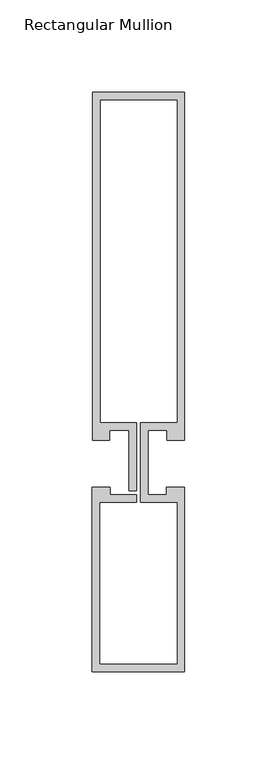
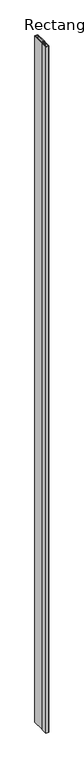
"""IFC4 building model written with IfcOpenShell, lengths in millimetres: member geometry, Rectangular Mullion : Reynaers_CW-50_Transom-Transom_188.5mm_Facecap-02D."""

import ifcopenshell
import ifcopenshell.guid

model = None  # the IFC model being written
_history = None  # IfcOwnerHistory: only IFC2X3 demands one
_inside = {}  # id of a spatial element -> (the spatial element, [elements in it])
_under = {}  # id of a project, library or spatial element -> (it, [spatial elements below it])
_declared = {}  # id of a project -> (the project, [libraries it declares])
_typed = {}  # id of a type object -> (the type object, [elements of that type])
_made_of = {}  # id of a material, layer set ... -> (it, [elements and type objects made of it])


def new_model(schema):
    """Start an empty IFC model of exactly this schema.

    Asked for "IFC4X3", IfcOpenShell would pick the latest addendum, in which some entities
    have other attributes; the version numbers below select the first issue.
    IFC2X3 requires an IfcOwnerHistory on every rooted entity: one is made here for all.
    """
    global model, _history
    if schema == "IFC4X3":
        model = ifcopenshell.file(schema_version=(4, 3, 0, 0))
    else:
        model = ifcopenshell.file(schema=schema)
    _inside.clear()
    _under.clear()
    _declared.clear()
    _typed.clear()
    _made_of.clear()
    _history = None
    if model.schema == "IFC2X3":
        org = make("IfcOrganization", Name="unknown")
        user = make(
            "IfcPersonAndOrganization",
            ThePerson=make("IfcPerson", FamilyName="unknown"),
            TheOrganization=org,
        )
        app = make(
            "IfcApplication",
            ApplicationDeveloper=org,
            Version="unknown",
            ApplicationFullName="unknown",
            ApplicationIdentifier="unknown",
        )
        _history = make(
            "IfcOwnerHistory",
            OwningUser=user,
            OwningApplication=app,
            ChangeAction="ADDED",
            CreationDate=0,
        )
    return model


def make(cls, **values):
    """One entity of the class cls with the attributes given. An attribute that is None is left unset."""
    return model.create_entity(
        cls, **{name: value for name, value in values.items() if value is not None}
    )


def rooted(cls, **values):
    """An entity with a GlobalId (a new one), such as an element, a storey or a relation."""
    return make(cls, GlobalId=ifcopenshell.guid.new(), OwnerHistory=_history, **values)


def si_unit(unit_type, name, prefix=None):
    """IfcSIUnit, for example si_unit("LENGTHUNIT", "METRE", prefix="MILLI")."""
    return make("IfcSIUnit", UnitType=unit_type, Prefix=prefix, Name=name)


def assignment(units):
    """IfcUnitAssignment: the units of a project."""
    return None if units is None else make("IfcUnitAssignment", Units=units)


def point(xyz):
    """IfcCartesianPoint."""
    return None if xyz is None else make("IfcCartesianPoint", Coordinates=xyz)


def direction(xyz):
    """IfcDirection."""
    return None if xyz is None else make("IfcDirection", DirectionRatios=xyz)


def frame(location, z_axis=None, x_axis=None):
    """IfcAxis2Placement3D, a coordinate frame: its origin and axes. An axis left out is left unset."""
    return make(
        "IfcAxis2Placement3D",
        Location=point(location),
        Axis=direction(z_axis),
        RefDirection=direction(x_axis),
    )


def origin():
    """The frame at (0, 0, 0) with its axes left unset."""
    return frame((0.0, 0.0, 0.0))


def place(relative_to, where):
    """IfcLocalPlacement: puts the frame where relative to a parent placement (None: the world)."""
    return make(
        "IfcLocalPlacement", PlacementRelTo=relative_to, RelativePlacement=where
    )


def context(
    kind, dimensions, precision=None, world=None, true_north=None, identifier=None
):
    """IfcGeometricRepresentationContext, for example the 3D "Model" context."""
    return make(
        "IfcGeometricRepresentationContext",
        ContextIdentifier=identifier,
        ContextType=kind,
        CoordinateSpaceDimension=dimensions,
        Precision=precision,
        WorldCoordinateSystem=world,
        TrueNorth=true_north,
    )


def project(units=None, contexts=None):
    """IfcProject with its units and contexts."""
    return rooted(
        "IfcProject",
        Name="project",
        RepresentationContexts=contexts,
        UnitsInContext=assignment(units),
    )


def spatial(cls, under=None, at=None, **own):
    """A site, building, storey or space (cls), placed at a placement, below another one or the project."""
    s = rooted(cls, ObjectPlacement=at, **own)
    if under is not None:
        _under.setdefault(under.id(), (under, []))[1].append(s)
    return s


def polyline(points):
    """IfcPolyline through the points."""
    return make("IfcPolyline", Points=[point(p) for p in points])


def outline(outer, holes=None, kind="AREA"):
    """IfcArbitraryClosedProfileDef: a profile drawn as a closed curve; with holes, ...WithVoids."""
    if holes is None:
        return make("IfcArbitraryClosedProfileDef", ProfileType=kind, OuterCurve=outer)
    return make(
        "IfcArbitraryProfileDefWithVoids",
        ProfileType=kind,
        OuterCurve=outer,
        InnerCurves=holes,
    )


def extrude(swept, where, along, depth):
    """IfcExtrudedAreaSolid: the profile swept, set in the frame where, extruded along a direction by depth."""
    return make(
        "IfcExtrudedAreaSolid",
        SweptArea=swept,
        Position=where,
        ExtrudedDirection=direction(along),
        Depth=depth,
    )


def shape(context_of_items, identifier, shape_type, items):
    """IfcShapeRepresentation: the items that make up one representation, for example the "Body"."""
    return make(
        "IfcShapeRepresentation",
        ContextOfItems=context_of_items,
        RepresentationIdentifier=identifier,
        RepresentationType=shape_type,
        Items=items,
    )


def source(mapping_origin, context_of_items, identifier, shape_type, items):
    """IfcRepresentationMap: a shape defined once, which mapped items show again and again."""
    return make(
        "IfcRepresentationMap",
        MappingOrigin=mapping_origin,
        MappedRepresentation=shape(context_of_items, identifier, shape_type, items),
    )


def transform(
    local_origin,
    x_axis=None,
    y_axis=None,
    z_axis=None,
    scale=None,
    scale2=None,
    scale3=None,
    uniform=True,
):
    """IfcCartesianTransformationOperator3D, or its non-uniform kind. x_axis, y_axis, z_axis: its Axis1, 2, 3."""
    if uniform:
        return make(
            "IfcCartesianTransformationOperator3D",
            Axis1=direction(x_axis),
            Axis2=direction(y_axis),
            LocalOrigin=point(local_origin),
            Scale=scale,
            Axis3=direction(z_axis),
        )
    return make(
        "IfcCartesianTransformationOperator3DnonUniform",
        Axis1=direction(x_axis),
        Axis2=direction(y_axis),
        LocalOrigin=point(local_origin),
        Scale=scale,
        Axis3=direction(z_axis),
        Scale2=scale2,
        Scale3=scale3,
    )


def mapped(mapping_source, mapping_target):
    """IfcMappedItem: shows the shape of a source again, moved by a transform."""
    return make(
        "IfcMappedItem", MappingSource=mapping_source, MappingTarget=mapping_target
    )


def made_of(thing, what):
    """Note that an element or type object is made of a material, layer set ...; save() writes the relation."""
    if what is not None:
        _made_of.setdefault(what.id(), (what, []))[1].append(thing)
    return thing


def element(
    cls,
    number,
    at=None,
    inside=None,
    cuts=None,
    type_object=None,
    material=None,
    context=None,
    identifier="Body",
    shape_type=None,
    held_by="IfcProductDefinitionShape",
    body=None,
    shapes=None,
    **own,
):
    """One element of the class cls, such as IfcWall. Its Tag is "e" and its number.

    at: its placement. inside: the storey or other place that contains it. cuts: it is an
    opening in that element (IfcRelVoidsElement). A single representation is given by context,
    identifier, shape_type and body (its items); several are given by shapes. held_by: the class
    of the entity that holds the representations. save() writes the other relations.
    """
    e = rooted(cls, Tag="e%d" % number, ObjectPlacement=at, **own)
    if body is not None:
        shapes = [shape(context, identifier, shape_type, body)]
    if shapes is not None:
        e.Representation = make(held_by, Representations=shapes)
    if inside is not None:
        _inside.setdefault(inside.id(), (inside, []))[1].append(e)
    if cuts is not None:
        rooted(
            "IfcRelVoidsElement", RelatingBuildingElement=cuts, RelatedOpeningElement=e
        )
    if type_object is not None:
        _typed.setdefault(type_object.id(), (type_object, []))[1].append(e)
    return made_of(e, material)


def aggregate(whole, parts):
    """IfcRelAggregates: a whole, such as a stair, and the parts it consists of."""
    return rooted("IfcRelAggregates", RelatingObject=whole, RelatedObjects=parts)


def save(model, path):
    """Write the relations noted so far, then the file.

    IfcRelAggregates (storeys below a building ...), IfcRelContainedInSpatialStructure (elements
    in a storey), IfcRelDefinesByType, IfcRelAssociatesMaterial and IfcRelDeclares: one each for
    every whole, place, type object, material and project.
    """
    for whole, parts in _under.values():
        aggregate(whole, parts)
    for where, things in _inside.values():
        rooted(
            "IfcRelContainedInSpatialStructure",
            RelatedElements=things,
            RelatingStructure=where,
        )
    for kind, things in _typed.values():
        rooted("IfcRelDefinesByType", RelatedObjects=things, RelatingType=kind)
    for what, things in _made_of.values():
        rooted("IfcRelAssociatesMaterial", RelatedObjects=things, RelatingMaterial=what)
    for by, libraries in _declared.values():
        rooted("IfcRelDeclares", RelatingContext=by, RelatedDefinitions=libraries)
    model.write(path)


def rectangular_mullion_c6a1e527(model_context):
    return source(origin(), model_context, "Body", "SweptSolid", [
        extrude(outline(polyline([(25.1995941, -12.7331291), (25.1995941, -112.7331291), (-24.994845, -112.7331291), (-24.994845, -12.7331291), (-15.2996495, -12.7331291), (-15.2996495, -16.7331291), (-0.9004059, -16.7331291), (-0.9004059, -20.7331291), (-20.994845, -20.7331291), (-20.994845, -108.7331291), (21.1995941, -108.7331291), (21.1995941, -20.7331291), (1.2995941, -20.7331291), (1.2995941, 22.1331291), (21.1995941, 22.1331291), (21.1995941, 197.2331291), (-20.8004059, 197.2331291), (-20.8004059, 22.1331291), (-0.9004059, 22.1331291), (-0.9004059, -14.7331291), (-4.9004059, -14.7331291), (-4.9004059, 18.1331291), (-15.499, 18.1331291), (-15.499, 12.7331291), (-24.8004059, 12.7331291), (-24.8004059, 201.2331291), (25.1995941, 201.2331291), (25.1995941, 12.7331291), (15.499, 12.7331291), (15.499, 18.1331291), (5.2995941, 18.1331291), (5.2995941, -16.7331291), (15.2996495, -16.7331291), (15.2996495, -12.7331291), (25.1995941, -12.7331291)])), frame((0.0, 0.0, -12000.0), z_axis=(0.0, 0.0, 1.0), x_axis=(1.0, 0.0, 0.0)), (0.0, 0.0, 1.0), 12000.0),
    ])


if __name__ == "__main__":
    model = new_model("IFC4")
    model_context = context("Model", 3, world=origin())
    ifc_project = project(units=[si_unit("LENGTHUNIT", "METRE", prefix="MILLI")], contexts=[model_context])
    site = spatial("IfcSite", under=ifc_project)
    building = spatial("IfcBuilding", under=site)
    placement = place(None, origin())
    rectangular_mullion_shape = rectangular_mullion_c6a1e527(model_context)
    element("IfcMember", 1, ObjectType="Rectangular Mullion : Reynaers_CW-50_Transom-Transom_188.5mm_Facecap-02D", at=placement, inside=building, context=model_context, shape_type="MappedRepresentation", body=[
        mapped(rectangular_mullion_shape, transform((0.0, 0.0, 0.0), x_axis=(1.0, 0.0, 0.0), y_axis=(0.0, 1.0, 0.0), z_axis=(0.0, 0.0, 1.0))),
    ])
    save(model, "model.ifc")
